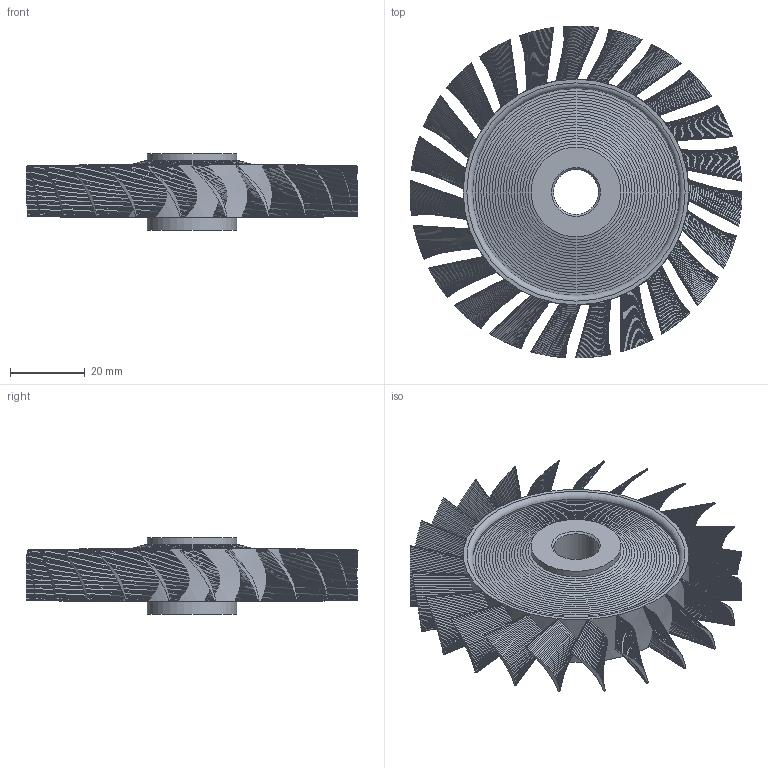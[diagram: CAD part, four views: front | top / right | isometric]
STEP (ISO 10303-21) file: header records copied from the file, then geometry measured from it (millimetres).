
FILE_DESCRIPTION(('Open CASCADE Model'),'2;1');
FILE_NAME('Open CASCADE Shape Model','2026-09-23T04:43:47',('Author'),( 'Open CASCADE'),'Open CASCADE STEP processor 7.9','Open CASCADE 7.9' ,'Unknown');
FILE_SCHEMA(('AUTOMOTIVE_DESIGN { 1 0 10303 214 1 1 1 1 }'));
Products named in the file (1): Open CASCADE STEP translator 7.9 1
Bounding box: 88.71 x 88.71 x 20.5 mm (x, y, z)
Volume: 31603.1 mm3; surface area: 21873.9 mm2
Topology: 1 solids, 1 shells, 2242 faces, 6666 edges, 4428 vertices
Faces by surface type: bspline 2139, cone 44, cylinder 30, plane 27, torus 2
Full cylindrical faces by diameter (mm): 12 x1, 24 x2, 55.32 x2, 60.32 x1
Entity records: 190682 total; most frequent: CARTESIAN_POINT 94028, B_SPLINE_CURVE_WITH_KNOTS 15239, ORIENTED_EDGE 13332, PCURVE 13332, DEFINITIONAL_REPRESENTATION 13332, EDGE_CURVE 6666, SURFACE_CURVE 6614, DIRECTION 5047
